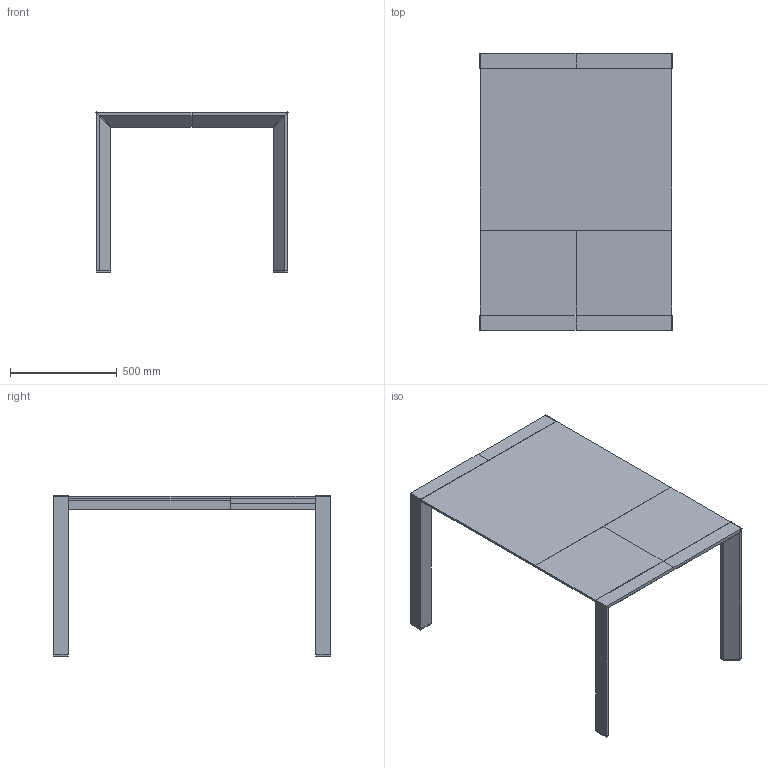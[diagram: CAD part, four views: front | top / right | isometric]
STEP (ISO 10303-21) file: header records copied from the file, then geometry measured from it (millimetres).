
FILE_DESCRIPTION(/* description */ (''),/* implementation_level */ '2;1');
FILE_NAME(/* name */ '10662 - Afill 90+40x90',/* time_stamp */ '2010-11-03T15:09:06+01:00',/* author */ (''),/* organization */ (''),/* preprocessor_version */ 'ST-DEVELOPER v10',/* originating_system */ '',/* authorisation */ '');
FILE_SCHEMA (('CONFIG_CONTROL_DESIGN'));
Length unit declared in the file: centimetre
Products named in the file (1): 1
Bounding box: 902.24 x 1300.6 x 751.1 mm (x, y, z)
Volume: 31936926.6 mm3; surface area: 4109678.2 mm2
Topology: 14 solids, 14 shells, 166 faces, 380 edges, 250 vertices
Faces by surface type: plane 166
Entity records: 4246 total; most frequent: CARTESIAN_POINT 1346, ORIENTED_EDGE 760, EDGE_CURVE 380, B_SPLINE_CURVE_WITH_KNOTS 380, VERTEX_POINT 250, EDGE_LOOP 174, DIRECTION 170, AXIS2_PLACEMENT_3D 168
